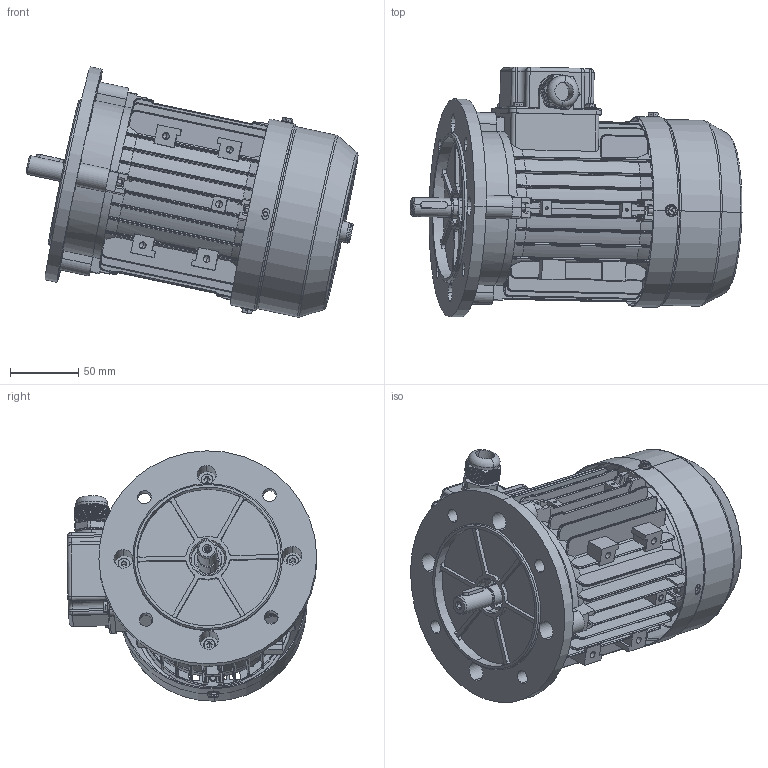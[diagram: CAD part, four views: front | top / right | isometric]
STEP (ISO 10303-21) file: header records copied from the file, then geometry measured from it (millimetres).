
FILE_DESCRIPTION (( 'STEP AP203' ), '1' );
FILE_NAME ('MSL71 assembly B5.STEP', '2017-11-26T09:37:05', ( 'user' ), ( 'china' ), 'SwSTEP 2.0', 'SolidWorks 2016', '' );
FILE_SCHEMA (( 'CONFIG_CONTROL_DESIGN' ));
Length unit declared in the file: millimetre
Products named in the file (13): GB-T 5780-2000 M5_020; M71-Shaft ; GB-T 29.2-1988 M4鞠褒坋趼湍菜_05; MSL71 assembly B5; M71瑞欶_69; M20 cable gland; GB-T 70.1-2000 M5_20; MSL63-71堤盄碟蚾饜; MS71 綴裔瑞欶郪磁; M71傷裔B3_Post; MSL63-71堤盄碟; MSL71-儂褲-L114; M71傷裔B5
Assembly tree (24 placements, depth 3):
  MSL71 assembly B5
    MSL71-儂褲-L114
    M71-Shaft 
    MS71 綴裔瑞欶郪磁
      M71傷裔B3_Post
      M71瑞欶_69
      GB-T 29.2-1988 M4鞠褒坋趼湍菜_05  x3
    MSL63-71堤盄碟蚾饜
      MSL63-71堤盄碟
      GB-T 29.2-1988 M4鞠褒坋趼湍菜_05  x4
      M20 cable gland
    GB-T 70.1-2000 M5_20  x4
    GB-T 5780-2000 M5_020  x4
    M71傷裔B5
Bounding box: 243.88 x 183.52 x 183.95 mm (x, y, z)
Volume: 544636.8 mm3; surface area: 418964.4 mm2
Topology: 22 solids, 22 shells, 2942 faces, 7546 edges, 4686 vertices
Faces by surface type: plane 1378, cylinder 975, cone 222, bspline 218, torus 149
Entity records: 99771 total; most frequent: CARTESIAN_POINT 37176, ORIENTED_EDGE 13272, DIRECTION 12066, EDGE_CURVE 6636, AXIS2_PLACEMENT_3D 4238, VERTEX_POINT 4209, LINE 3590, VECTOR 3590
